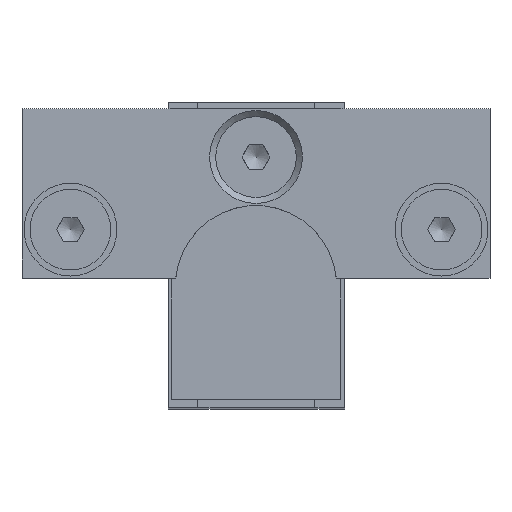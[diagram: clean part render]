
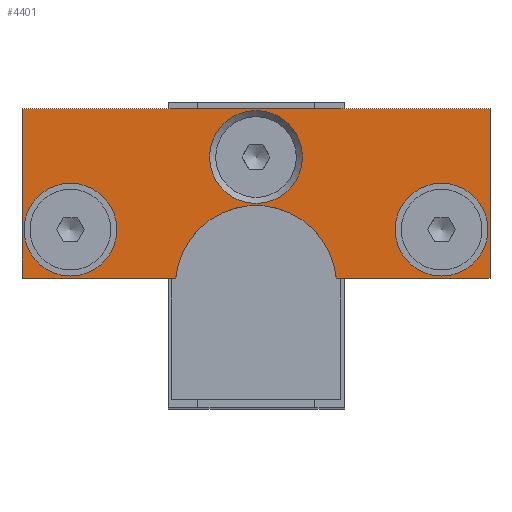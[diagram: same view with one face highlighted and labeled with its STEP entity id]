
A CAD part, top view. The second image highlights one B-rep face of the part: STEP entity #4401.
In plain terms, the highlighted planar face has unit normal (0, 0, 1).
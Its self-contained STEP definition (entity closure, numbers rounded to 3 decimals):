
#127=FACE_BOUND('',#1262,.T.);
#128=FACE_BOUND('',#1263,.T.);
#129=FACE_BOUND('',#1264,.T.);
#194=PLANE('',#4806);
#347=LINE('',#6839,#633);
#348=LINE('',#6841,#634);
#349=LINE('',#6843,#635);
#350=LINE('',#6847,#636);
#351=LINE('',#6848,#637);
#633=VECTOR('',#5466,10.);
#634=VECTOR('',#5467,10.);
#635=VECTOR('',#5468,10.);
#636=VECTOR('',#5471,10.);
#637=VECTOR('',#5472,10.);
#1005=FACE_OUTER_BOUND('',#1261,.T.);
#1261=EDGE_LOOP('',(#3044,#3045,#3046,#3047,#3048,#3049));
#1262=EDGE_LOOP('',(#3050));
#1263=EDGE_LOOP('',(#3051));
#1264=EDGE_LOOP('',(#3052));
#1565=CIRCLE('',#4804,5.75);
#1567=CIRCLE('',#4807,10.);
#1568=CIRCLE('',#4808,5.75);
#1569=CIRCLE('',#4809,5.75);
#1864=VERTEX_POINT('',#6831);
#1866=VERTEX_POINT('',#6837);
#1867=VERTEX_POINT('',#6838);
#1868=VERTEX_POINT('',#6840);
#1869=VERTEX_POINT('',#6842);
#1870=VERTEX_POINT('',#6844);
#1871=VERTEX_POINT('',#6846);
#1872=VERTEX_POINT('',#6849);
#1873=VERTEX_POINT('',#6851);
#2327=EDGE_CURVE('',#1864,#1864,#1565,.T.);
#2330=EDGE_CURVE('',#1866,#1867,#347,.T.);
#2331=EDGE_CURVE('',#1867,#1868,#348,.T.);
#2332=EDGE_CURVE('',#1868,#1869,#349,.T.);
#2333=EDGE_CURVE('',#1869,#1870,#1567,.T.);
#2334=EDGE_CURVE('',#1870,#1871,#350,.T.);
#2335=EDGE_CURVE('',#1871,#1866,#351,.T.);
#2336=EDGE_CURVE('',#1872,#1872,#1568,.T.);
#2337=EDGE_CURVE('',#1873,#1873,#1569,.T.);
#3044=ORIENTED_EDGE('',*,*,#2330,.T.);
#3045=ORIENTED_EDGE('',*,*,#2331,.T.);
#3046=ORIENTED_EDGE('',*,*,#2332,.T.);
#3047=ORIENTED_EDGE('',*,*,#2333,.T.);
#3048=ORIENTED_EDGE('',*,*,#2334,.T.);
#3049=ORIENTED_EDGE('',*,*,#2335,.T.);
#3050=ORIENTED_EDGE('',*,*,#2336,.F.);
#3051=ORIENTED_EDGE('',*,*,#2337,.F.);
#3052=ORIENTED_EDGE('',*,*,#2327,.F.);
#4401=ADVANCED_FACE('',(#1005,#127,#128,#129),#194,.T.);
#4804=AXIS2_PLACEMENT_3D('',#6832,#5459,#5460);
#4806=AXIS2_PLACEMENT_3D('',#6836,#5464,#5465);
#4807=AXIS2_PLACEMENT_3D('',#6845,#5469,#5470);
#4808=AXIS2_PLACEMENT_3D('',#6850,#5473,#5474);
#4809=AXIS2_PLACEMENT_3D('',#6852,#5475,#5476);
#5459=DIRECTION('center_axis',(0.,0.,
1.));
#5460=DIRECTION('ref_axis',(-1.,0.,0.));
#5464=DIRECTION('center_axis',(0.,0.,
1.));
#5465=DIRECTION('ref_axis',(1.,0.,0.));
#5466=DIRECTION('',(-1.,0.,0.));
#5467=DIRECTION('',(0.,-1.,0.));
#5468=DIRECTION('',(1.,0.,0.));
#5469=DIRECTION('center_axis',(0.,0.,
-1.));
#5470=DIRECTION('ref_axis',(0.995,0.1,0.));
#5471=DIRECTION('',(1.,0.,0.));
#5472=DIRECTION('',(0.,1.,0.));
#5473=DIRECTION('center_axis',(0.,0.,
1.));
#5474=DIRECTION('ref_axis',(-1.,0.,0.));
#5475=DIRECTION('center_axis',(0.,0.,
1.));
#5476=DIRECTION('ref_axis',(-1.,0.,0.));
#6831=CARTESIAN_POINT('',(39.65,22.,96.));
#6832=CARTESIAN_POINT('Origin',(33.9,22.,96.));
#6836=CARTESIAN_POINT('Origin',(10.9,27.153,96.));
#6837=CARTESIAN_POINT('',(39.9,37.,96.));
#6838=CARTESIAN_POINT('',(-18.1,37.,96.));
#6839=CARTESIAN_POINT('',(-18.1,37.,96.));
#6840=CARTESIAN_POINT('',(-18.1,16.,96.));
#6841=CARTESIAN_POINT('',(-18.1,16.,96.));
#6842=CARTESIAN_POINT('',(0.95,16.,96.));
#6843=CARTESIAN_POINT('',(0.95,16.,96.));
#6844=CARTESIAN_POINT('',(20.85,16.,96.));
#6845=CARTESIAN_POINT('Origin',(10.9,15.,96.));
#6846=CARTESIAN_POINT('',(39.9,16.,96.));
#6847=CARTESIAN_POINT('',(39.9,16.,96.));
#6848=CARTESIAN_POINT('',(39.9,37.,96.));
#6849=CARTESIAN_POINT('',(16.65,31.,96.));
#6850=CARTESIAN_POINT('Origin',(10.9,31.,96.));
#6851=CARTESIAN_POINT('',(-6.35,22.,96.));
#6852=CARTESIAN_POINT('Origin',(-12.1,22.,96.));
